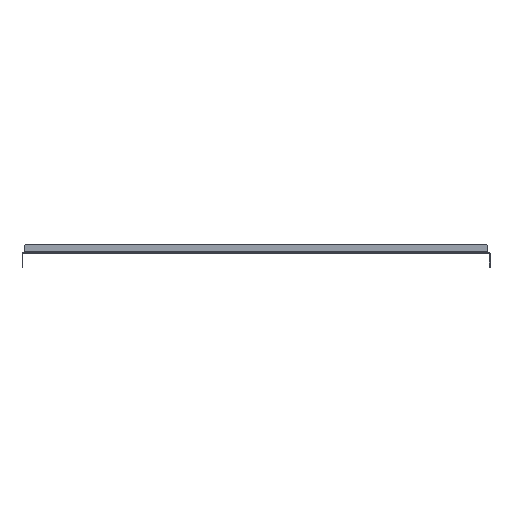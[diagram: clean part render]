
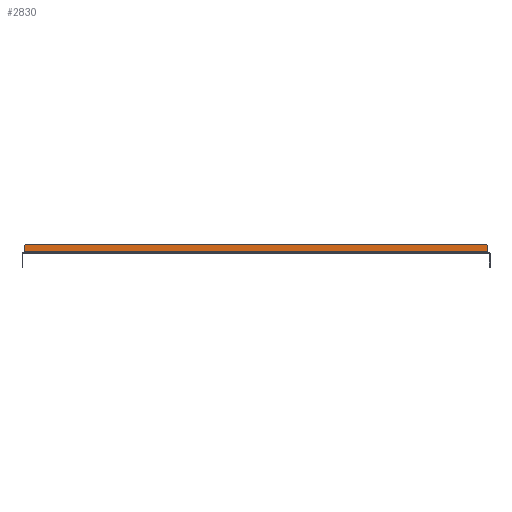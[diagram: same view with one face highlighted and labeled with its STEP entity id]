
A CAD part, left-side view. The second image highlights one B-rep face of the part: STEP entity #2830.
In plain terms, the highlighted planar face has unit normal (-1, 0, 0).
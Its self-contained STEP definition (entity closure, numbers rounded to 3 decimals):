
#6 = AXIS2_PLACEMENT_3D ( 'NONE', #1706, #270, #1912 ) ;
#16 = DIRECTION ( 'NONE',  ( 0., 0., 1. ) ) ;
#268 = LINE ( 'NONE', #1725, #2543 ) ;
#270 = DIRECTION ( 'NONE',  ( -1., 0., 0. ) ) ;
#309 = EDGE_CURVE ( 'NONE', #744, #410, #404, .T. ) ;
#356 = CARTESIAN_POINT ( 'NONE',  ( -349., -496.423, 0. ) ) ;
#360 = DIRECTION ( 'NONE',  ( -1., 0., 0. ) ) ;
#364 = DIRECTION ( 'NONE',  ( 0., -1., 0. ) ) ;
#404 = LINE ( 'NONE', #1115, #1045 ) ;
#410 = VERTEX_POINT ( 'NONE', #2849 ) ;
#442 = ORIENTED_EDGE ( 'NONE', *, *, #1802, .T. ) ;
#488 = VERTEX_POINT ( 'NONE', #563 ) ;
#563 = CARTESIAN_POINT ( 'NONE',  ( -349., -478.25, 13. ) ) ;
#601 = DIRECTION ( 'NONE',  ( 0., 0., 1. ) ) ;
#744 = VERTEX_POINT ( 'NONE', #1812 ) ;
#811 = ORIENTED_EDGE ( 'NONE', *, *, #2079, .F. ) ;
#960 = VECTOR ( 'NONE', #364, 1000. ) ;
#970 = VERTEX_POINT ( 'NONE', #1420 ) ;
#996 = VECTOR ( 'NONE', #2661, 1000. ) ;
#1035 = CIRCLE ( 'NONE', #6, 5. ) ;
#1045 = VECTOR ( 'NONE', #1664, 1000. ) ;
#1109 = AXIS2_PLACEMENT_3D ( 'NONE', #356, #1979, #601 ) ;
#1115 = CARTESIAN_POINT ( 'NONE',  ( -349., -496.423, 18. ) ) ;
#1209 = ORIENTED_EDGE ( 'NONE', *, *, #2195, .T. ) ;
#1315 = PLANE ( 'NONE',  #1109 ) ;
#1348 = EDGE_CURVE ( 'NONE', #1814, #970, #1447, .T. ) ;
#1353 = EDGE_LOOP ( 'NONE', ( #1532, #1209, #2357, #442, #811, #2066 ) ) ;
#1420 = CARTESIAN_POINT ( 'NONE',  ( -349., -478.25, 2.5 ) ) ;
#1447 = LINE ( 'NONE', #1786, #960 ) ;
#1478 = CARTESIAN_POINT ( 'NONE',  ( -349., -478.25, 0. ) ) ;
#1532 = ORIENTED_EDGE ( 'NONE', *, *, #2014, .F. ) ;
#1631 = LINE ( 'NONE', #1478, #996 ) ;
#1664 = DIRECTION ( 'NONE',  ( 0., 1., 0. ) ) ;
#1706 = CARTESIAN_POINT ( 'NONE',  ( -349., 473.25, 13. ) ) ;
#1725 = CARTESIAN_POINT ( 'NONE',  ( -349., 478.25, 0. ) ) ;
#1781 = CARTESIAN_POINT ( 'NONE',  ( -349., -473.25, 13. ) ) ;
#1786 = CARTESIAN_POINT ( 'NONE',  ( -349., -496.423, 2.5 ) ) ;
#1802 = EDGE_CURVE ( 'NONE', #410, #1856, #1035, .T. ) ;
#1812 = CARTESIAN_POINT ( 'NONE',  ( -349., -473.25, 18. ) ) ;
#1814 = VERTEX_POINT ( 'NONE', #2114 ) ;
#1856 = VERTEX_POINT ( 'NONE', #2304 ) ;
#1912 = DIRECTION ( 'NONE',  ( 0., 0., 1. ) ) ;
#1979 = DIRECTION ( 'NONE',  ( -1., 0., 0. ) ) ;
#1983 = DIRECTION ( 'NONE',  ( 0., 0., 1. ) ) ;
#2014 = EDGE_CURVE ( 'NONE', #488, #970, #1631, .T. ) ;
#2066 = ORIENTED_EDGE ( 'NONE', *, *, #1348, .T. ) ;
#2079 = EDGE_CURVE ( 'NONE', #1814, #1856, #268, .T. ) ;
#2114 = CARTESIAN_POINT ( 'NONE',  ( -349., 478.25, 2.5 ) ) ;
#2195 = EDGE_CURVE ( 'NONE', #488, #744, #2791, .T. ) ;
#2304 = CARTESIAN_POINT ( 'NONE',  ( -349., 478.25, 13. ) ) ;
#2357 = ORIENTED_EDGE ( 'NONE', *, *, #309, .T. ) ;
#2396 = AXIS2_PLACEMENT_3D ( 'NONE', #1781, #360, #1983 ) ;
#2543 = VECTOR ( 'NONE', #16, 1000. ) ;
#2661 = DIRECTION ( 'NONE',  ( 0., 0., -1. ) ) ;
#2759 = FACE_OUTER_BOUND ( 'NONE', #1353, .T. ) ;
#2791 = CIRCLE ( 'NONE', #2396, 5. ) ;
#2830 = ADVANCED_FACE ( 'NONE', ( #2759 ), #1315, .T. ) ;
#2849 = CARTESIAN_POINT ( 'NONE',  ( -349., 473.25, 18. ) ) ;
